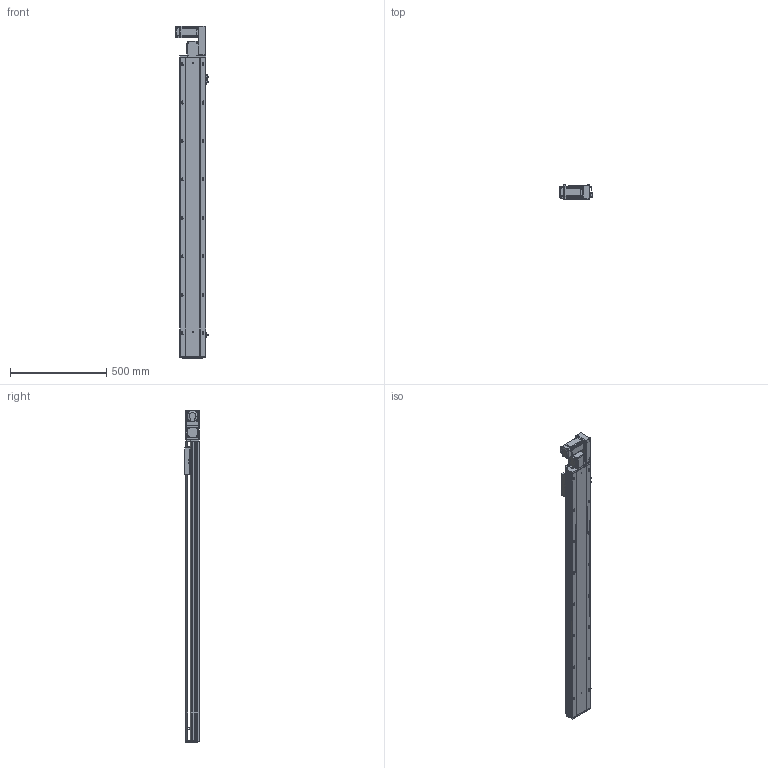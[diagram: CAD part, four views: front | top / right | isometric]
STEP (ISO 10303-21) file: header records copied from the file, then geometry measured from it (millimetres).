
FILE_DESCRIPTION (( 'STEP AP203' ), '1' );
FILE_NAME ('RY140-T-300-RK.SLDASM_1300.step', '2021-03-01T06:46:15', ( '盈信电脑' ), ( '东莞市道滘镇水果街19号' ), 'SwSTEP 2.0', 'SolidWorks 2012', '' );
FILE_SCHEMA (( 'CONFIG_CONTROL_DESIGN' ));
Products named in the file (17): RY120-T主同步轮轴承压盖; RY140-T-300-RK.SLDASM_1300; RY120-T蹟翐M4; RY140-T萇儂假蚾啣; RY140-T萇儂欶; 15; 滅袉蝶18-10; RY140-T翋肮謫裔啣; RY140-T翋肮祭謫盓傅釱; RY120-T肮祭湍揤踡輸2; 覜茼ん672; RY120外置感应片(140共用）; RY120-T肮祭湍揤踡輸1; RY140-T-300-DR倰第菁釱_1300; RY140綴裔啣; RY140肮祭謫臏賑輸; RY140-T-300-DR倰第奻裔啣_1300
Assembly tree (22 placements, depth 2):
  RY140-T-300-RK.SLDASM_1300
    RY140-T-300-DR倰第菁釱_1300
    RY140肮祭謫臏賑輸
    RY140-T-300-DR倰第奻裔啣_1300
    RY140綴裔啣
    覜茼ん672  x3
    RY120外置感应片(140共用）
    RY120-T肮祭湍揤踡輸2
    RY120-T肮祭湍揤踡輸1
    RY140-T翋肮祭謫盓傅釱
    滅袉蝶18-10  x2
    RY140-T翋肮謫裔啣
    RY140-T萇儂欶
    RY140-T萇儂假蚾啣
    RY120-T蹟翐M4  x4
    15
    RY120-T主同步轮轴承压盖
Bounding box: 170.7 x 78 x 1726.5 mm (x, y, z)
Volume: 4715496.5 mm3; surface area: 1817143.7 mm2
Topology: 22 solids, 22 shells, 2727 faces, 7457 edges, 4768 vertices
Faces by surface type: plane 1381, cylinder 1004, cone 242, bspline 100
Entity records: 85914 total; most frequent: CARTESIAN_POINT 20899, ORIENTED_EDGE 13354, DIRECTION 12745, EDGE_CURVE 6677, VERTEX_POINT 4367, LINE 4261, VECTOR 4261, AXIS2_PLACEMENT_3D 4242
